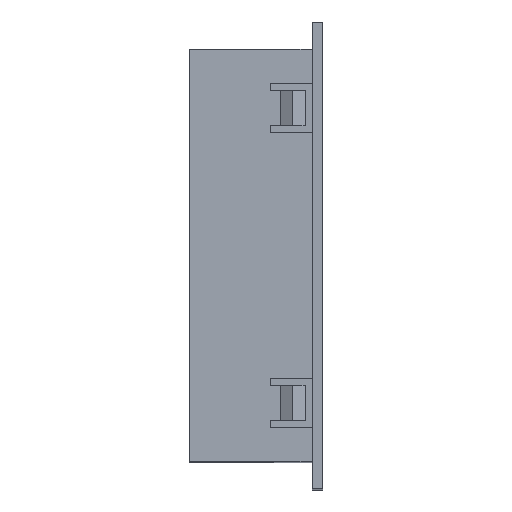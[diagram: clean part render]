
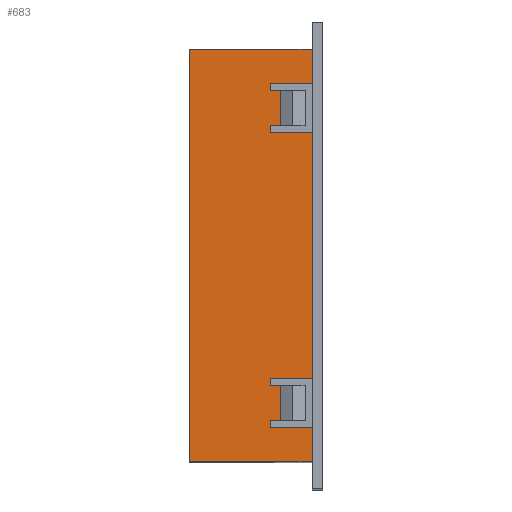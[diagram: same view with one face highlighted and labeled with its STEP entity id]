
A CAD part, top view. The second image highlights one B-rep face of the part: STEP entity #683.
In plain terms, the highlighted planar face has unit normal (0, 0, 1).
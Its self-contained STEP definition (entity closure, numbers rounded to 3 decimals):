
#683=ADVANCED_FACE('',(#1828),#1830,.T.);
#1828=FACE_BOUND('',#1829,.T.);
#1829=EDGE_LOOP('',(#2929,#2930,#2931,#2932,#2933,#2934,#2935,#2936,#2937,#2938,
#2939,#2940,#2941,#2942,#2943,#2944,#2945,#2946,#2947,#2948));
#1830=PLANE('',#1831);
#1831=AXIS2_PLACEMENT_3D('',#1832,#1833,#1834);
#1832=CARTESIAN_POINT('',(17.5,-29.4,49.1));
#1833=DIRECTION('',(0.,0.,1.));
#1834=DIRECTION('',(0.,1.,0.));
#2929=ORIENTED_EDGE('',*,*,#3626,.F.);
#2930=ORIENTED_EDGE('',*,*,#3627,.T.);
#2931=ORIENTED_EDGE('',*,*,#3628,.T.);
#2932=ORIENTED_EDGE('',*,*,#3629,.T.);
#2933=ORIENTED_EDGE('',*,*,#3460,.T.);
#2934=ORIENTED_EDGE('',*,*,#3588,.T.);
#2935=ORIENTED_EDGE('',*,*,#3424,.F.);
#2936=ORIENTED_EDGE('',*,*,#3616,.F.);
#2937=ORIENTED_EDGE('',*,*,#3467,.T.);
#2938=ORIENTED_EDGE('',*,*,#3630,.T.);
#2939=ORIENTED_EDGE('',*,*,#3631,.T.);
#2940=ORIENTED_EDGE('',*,*,#3632,.T.);
#2941=ORIENTED_EDGE('',*,*,#3633,.F.);
#2942=ORIENTED_EDGE('',*,*,#3634,.T.);
#2943=ORIENTED_EDGE('',*,*,#3635,.T.);
#2944=ORIENTED_EDGE('',*,*,#3636,.T.);
#2945=ORIENTED_EDGE('',*,*,#3468,.T.);
#2946=ORIENTED_EDGE('',*,*,#3637,.T.);
#2947=ORIENTED_EDGE('',*,*,#3638,.T.);
#2948=ORIENTED_EDGE('',*,*,#3639,.T.);
#3424=EDGE_CURVE('',#4024,#4026,#4027,.F.);
#3460=EDGE_CURVE('',#4091,#4089,#4092,.T.);
#3467=EDGE_CURVE('',#4069,#4102,#4104,.T.);
#3468=EDGE_CURVE('',#4105,#4106,#4107,.T.);
#3588=EDGE_CURVE('',#4089,#4026,#4297,.T.);
#3616=EDGE_CURVE('',#4069,#4024,#4346,.T.);
#3626=EDGE_CURVE('',#4363,#4364,#4365,.T.);
#3627=EDGE_CURVE('',#4363,#4366,#4367,.F.);
#3628=EDGE_CURVE('',#4366,#4368,#4369,.F.);
#3629=EDGE_CURVE('',#4368,#4091,#4370,.F.);
#3630=EDGE_CURVE('',#4102,#4371,#4372,.F.);
#3631=EDGE_CURVE('',#4371,#4373,#4374,.F.);
#3632=EDGE_CURVE('',#4373,#4375,#4376,.F.);
#3633=EDGE_CURVE('',#4377,#4375,#4378,.T.);
#3634=EDGE_CURVE('',#4377,#4379,#4380,.F.);
#3635=EDGE_CURVE('',#4379,#4381,#4382,.F.);
#3636=EDGE_CURVE('',#4381,#4105,#4383,.F.);
#3637=EDGE_CURVE('',#4106,#4384,#4385,.F.);
#3638=EDGE_CURVE('',#4384,#4386,#4387,.F.);
#3639=EDGE_CURVE('',#4386,#4364,#4388,.F.);
#4024=VERTEX_POINT('',#5189);
#4026=VERTEX_POINT('',#5193);
#4027=LINE('',#5194,#5195);
#4069=VERTEX_POINT('',#5327);
#4089=VERTEX_POINT('',#5367);
#4091=VERTEX_POINT('',#5371);
#4092=LINE('',#5372,#5373);
#4102=VERTEX_POINT('',#5394);
#4104=LINE('',#5398,#5399);
#4105=VERTEX_POINT('',#5401);
#4106=VERTEX_POINT('',#5402);
#4107=LINE('',#5403,#5404);
#4297=LINE('',#5833,#5834);
#4346=LINE('',#5938,#5939);
#4363=VERTEX_POINT('',#5975);
#4364=VERTEX_POINT('',#5976);
#4365=LINE('',#5977,#5978);
#4366=VERTEX_POINT('',#5980);
#4367=LINE('',#5981,#5982);
#4368=VERTEX_POINT('',#5984);
#4369=LINE('',#5985,#5986);
#4370=LINE('',#5988,#5989);
#4371=VERTEX_POINT('',#5991);
#4372=LINE('',#5992,#5993);
#4373=VERTEX_POINT('',#5995);
#4374=LINE('',#5996,#5997);
#4375=VERTEX_POINT('',#5999);
#4376=LINE('',#6000,#6001);
#4377=VERTEX_POINT('',#6003);
#4378=LINE('',#6004,#6005);
#4379=VERTEX_POINT('',#6007);
#4380=LINE('',#6008,#6009);
#4381=VERTEX_POINT('',#6011);
#4382=LINE('',#6012,#6013);
#4383=LINE('',#6015,#6016);
#4384=VERTEX_POINT('',#6018);
#4385=LINE('',#6019,#6020);
#4386=VERTEX_POINT('',#6022);
#4387=LINE('',#6023,#6024);
#4388=LINE('',#6026,#6027);
#5189=CARTESIAN_POINT('',(0.,-29.4,49.1));
#5193=CARTESIAN_POINT('',(0.,29.4,49.1));
#5194=CARTESIAN_POINT('',(0.,29.4,49.1));
#5195=VECTOR('',#5196,1.);
#5196=DIRECTION('',(0.,-1.,0.));
#5327=CARTESIAN_POINT('',(17.5,-29.4,49.1));
#5367=CARTESIAN_POINT('',(17.5,29.4,49.1));
#5371=CARTESIAN_POINT('',(17.5,24.5,49.1));
#5372=CARTESIAN_POINT('',(17.5,24.5,49.1));
#5373=VECTOR('',#5374,1.);
#5374=DIRECTION('',(0.,1.,0.));
#5394=CARTESIAN_POINT('',(17.5,-24.5,49.1));
#5398=CARTESIAN_POINT('',(17.5,-29.4,49.1));
#5399=VECTOR('',#5400,1.);
#5400=DIRECTION('',(0.,1.,0.));
#5401=CARTESIAN_POINT('',(17.5,-17.5,49.1));
#5402=CARTESIAN_POINT('',(17.5,17.5,49.1));
#5403=CARTESIAN_POINT('',(17.5,-17.5,49.1));
#5404=VECTOR('',#5405,1.);
#5405=DIRECTION('',(0.,1.,0.));
#5833=CARTESIAN_POINT('',(17.5,29.4,49.1));
#5834=VECTOR('',#5835,1.);
#5835=DIRECTION('',(-1.,0.,0.));
#5938=CARTESIAN_POINT('',(17.5,-29.4,49.1));
#5939=VECTOR('',#5940,1.);
#5940=DIRECTION('',(-1.,0.,0.));
#5975=CARTESIAN_POINT('',(13.,23.5,49.1));
#5976=CARTESIAN_POINT('',(13.,18.5,49.1));
#5977=CARTESIAN_POINT('',(13.,23.5,49.1));
#5978=VECTOR('',#5979,1.);
#5979=DIRECTION('',(0.,-1.,0.));
#5980=CARTESIAN_POINT('',(11.5,23.5,49.1));
#5981=CARTESIAN_POINT('',(11.5,23.5,49.1));
#5982=VECTOR('',#5983,1.);
#5983=DIRECTION('',(1.,0.,0.));
#5984=CARTESIAN_POINT('',(11.5,24.5,49.1));
#5985=CARTESIAN_POINT('',(11.5,24.5,49.1));
#5986=VECTOR('',#5987,1.);
#5987=DIRECTION('',(0.,-1.,0.));
#5988=CARTESIAN_POINT('',(17.5,24.5,49.1));
#5989=VECTOR('',#5990,1.);
#5990=DIRECTION('',(-1.,0.,0.));
#5991=CARTESIAN_POINT('',(11.5,-24.5,49.1));
#5992=CARTESIAN_POINT('',(11.5,-24.5,49.1));
#5993=VECTOR('',#5994,1.);
#5994=DIRECTION('',(1.,0.,0.));
#5995=CARTESIAN_POINT('',(11.5,-23.5,49.1));
#5996=CARTESIAN_POINT('',(11.5,-23.5,49.1));
#5997=VECTOR('',#5998,1.);
#5998=DIRECTION('',(0.,-1.,0.));
#5999=CARTESIAN_POINT('',(13.,-23.5,49.1));
#6000=CARTESIAN_POINT('',(13.,-23.5,49.1));
#6001=VECTOR('',#6002,1.);
#6002=DIRECTION('',(-1.,0.,0.));
#6003=CARTESIAN_POINT('',(13.,-18.5,49.1));
#6004=CARTESIAN_POINT('',(13.,-18.5,49.1));
#6005=VECTOR('',#6006,1.);
#6006=DIRECTION('',(0.,-1.,0.));
#6007=CARTESIAN_POINT('',(11.5,-18.5,49.1));
#6008=CARTESIAN_POINT('',(11.5,-18.5,49.1));
#6009=VECTOR('',#6010,1.);
#6010=DIRECTION('',(1.,0.,0.));
#6011=CARTESIAN_POINT('',(11.5,-17.5,49.1));
#6012=CARTESIAN_POINT('',(11.5,-17.5,49.1));
#6013=VECTOR('',#6014,1.);
#6014=DIRECTION('',(0.,-1.,0.));
#6015=CARTESIAN_POINT('',(17.5,-17.5,49.1));
#6016=VECTOR('',#6017,1.);
#6017=DIRECTION('',(-1.,0.,0.));
#6018=CARTESIAN_POINT('',(11.5,17.5,49.1));
#6019=CARTESIAN_POINT('',(11.5,17.5,49.1));
#6020=VECTOR('',#6021,1.);
#6021=DIRECTION('',(1.,0.,0.));
#6022=CARTESIAN_POINT('',(11.5,18.5,49.1));
#6023=CARTESIAN_POINT('',(11.5,18.5,49.1));
#6024=VECTOR('',#6025,1.);
#6025=DIRECTION('',(0.,-1.,0.));
#6026=CARTESIAN_POINT('',(13.,18.5,49.1));
#6027=VECTOR('',#6028,1.);
#6028=DIRECTION('',(-1.,0.,0.));
